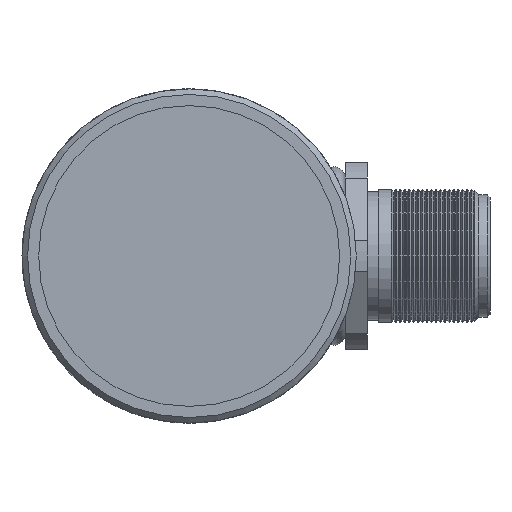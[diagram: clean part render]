
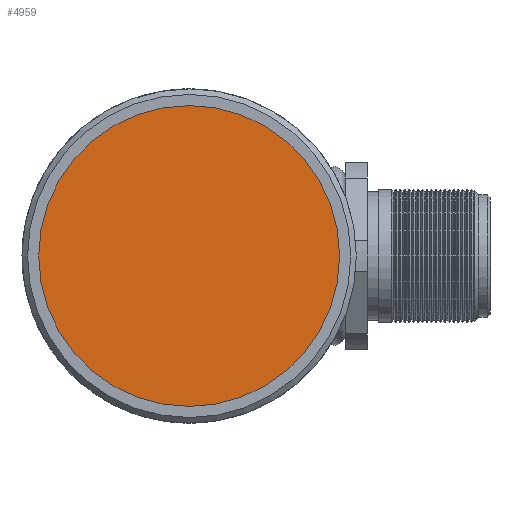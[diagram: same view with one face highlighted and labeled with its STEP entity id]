
A CAD part, left-side view. The second image highlights one B-rep face of the part: STEP entity #4959.
In plain terms, the highlighted planar face has unit normal (-1, 0, 0).
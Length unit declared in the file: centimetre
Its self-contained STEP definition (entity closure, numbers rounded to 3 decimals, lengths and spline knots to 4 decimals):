
#597=CIRCLE('',#5338,1.35);
#965=VERTEX_POINT('',#7589);
#2116=EDGE_CURVE('',#965,#965,#597,.T.);
#3001=ORIENTED_EDGE('',*,*,#2116,.T.);
#4021=EDGE_LOOP('',(#3001));
#4495=FACE_BOUND('',#4021,.T.);
#4959=ADVANCED_FACE('',(#4495),#8826,.F.);
#5338=AXIS2_PLACEMENT_3D('',#7588,#6051,#6052);
#5339=AXIS2_PLACEMENT_3D('',#7590,#6053,$);
#6051=DIRECTION('',(-1.,0.,0.));
#6052=DIRECTION('',(0.,0.,-1.35));
#6053=DIRECTION('',(1.,0.,0.));
#7588=CARTESIAN_POINT('',(-5.4,0.,0.));
#7589=CARTESIAN_POINT('',(-5.4,0.,-1.35));
#7590=CARTESIAN_POINT('',(-5.4,0.,0.));
#8826=PLANE('',#5339);
